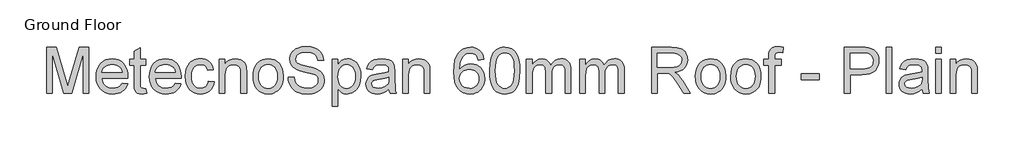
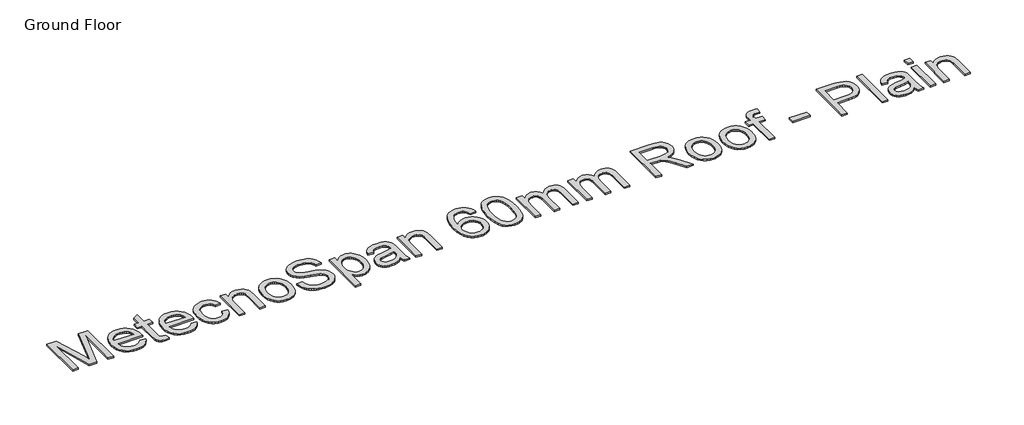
# One storey, part 4 of 14: 1 proxy.
"""IFC4 building model written with IfcOpenShell, lengths in millimetres."""

from ifc_helpers import new_model, si_unit, origin, origin_with_axes, place, context, project, spatial, polyline, outline, extrude, element, save

model = new_model("IFC4")

# Units and contexts
model_context = context("Model", 3, world=origin())
ifc_project = project(units=[si_unit("LENGTHUNIT", "METRE", prefix="MILLI")], contexts=[model_context])

# Site, building, storey
site = spatial("IfcSite", under=ifc_project)
building = spatial("IfcBuilding", under=site)
storey = spatial("IfcBuildingStorey", under=building, Name="Ground Floor", Elevation=0.0)

# Proxy
placement = place(None, origin())
element("IfcBuildingElementProxy", 1, Name="600mm Arial", ObjectType="600mm Arial", at=placement, inside=storey, context=model_context, shape_type="SweptSolid", body=[
    extrude(outline(polyline([(11613.3888321, -15259.7789852), (11613.3888321, -14657.0411243), (11743.0304472, -14657.0411243), (11866.344492, -15081.8712524), (11891.2133148, -15170.6043896), (11918.1422769, -15074.5136125), (12039.3961825, -14657.0411243), (12169.0377976, -14657.0411243), (12169.0377976, -15259.7789852), (12093.695565, -15259.7789852), (12093.695565, -14732.3833569), (11942.2753358, -15259.7789852), (11840.1512939, -15259.7789852), (11688.7310647, -14732.3833569), (11688.7310647, -15259.7789852), (11613.3888321, -15259.7789852)])), origin_with_axes(), (0.0, 0.0, 1.0), 20.0),
    extrude(outline(polyline([(12601.3727183, -15127.9300782), (12675.243423, -15137.3478572), (12663.917256, -15166.9347667), (12648.6271606, -15193.0084031), (12629.3731367, -15215.5687665), (12606.1551843, -15234.6158568), (12579.2124267, -15249.7450038), (12548.7839871, -15260.5515374), (12514.8698657, -15267.0354576), (12477.4700624, -15269.1967643), (12430.7214578, -15265.4673606), (12389.0680189, -15254.2791494), (12352.5097456, -15235.6321308), (12321.046638, -15209.5263047), (12295.7455538, -15176.6882381), (12277.6733508, -15137.8444979), (12266.830029, -15092.9950842), (12263.2155884, -15042.1399969), (12266.8668172, -14989.5604627), (12277.8205036, -14943.2165284), (12296.0766476, -14903.1081939), (12321.6352492, -14869.2354592), (12353.0155834, -14842.3248912), (12388.7369251, -14823.103057), (12428.7992744, -14811.5699564), (12473.2026312, -14807.7255896), (12516.1758468, -14811.5607594), (12555.037981, -14823.0662688), (12589.789034, -14842.2421178), (12620.4290057, -14869.0883064), (12645.4403828, -14902.8874647), (12663.3056522, -14942.9222228), (12674.0248139, -14989.1925807), (12677.5978677, -15041.6985385), (12677.1564093, -15062.0056246), (12338.557821, -15062.0056246), (12342.9218211, -15092.0707807), (12351.5992377, -15118.4019345), (12364.5900707, -15140.999086), (12381.89432, -15159.8622353), (12402.5554926, -15174.733865), (12425.6170951, -15185.3564576), (12451.0791277, -15191.7300132), (12478.9415903, -15193.8545317), (12519.0407278, -15189.9181943), (12552.812295, -15178.1091823), (12580.2562918, -15157.6917316), (12601.3727183, -15127.9300782)]), holes=[polyline([(12338.557821, -14986.663392), (12602.2556351, -14986.663392), (12592.0653039, -14946.8585601), (12583.3005153, -14931.2051812), (12572.0893115, -14918.3844937), (12551.5431021, -14902.9334499), (12528.1642013, -14891.8969901), (12501.9526091, -14885.2751141), (12472.9083256, -14883.0678222), (12446.4162234, -14884.8290572), (12422.1222162, -14890.1127624), (12400.0263038, -14898.9189376), (12380.1284864, -14911.247583), (12363.4312424, -14926.5284814), (12350.9370501, -14944.1914157), (12342.6459097, -14964.2363859), (12338.557821, -14986.663392)])]), origin_with_axes(), (0.0, 0.0, 1.0), 20.0),
    extrude(outline(polyline([(12913.0423446, -15196.9447405), (12922.4601237, -15261.9862772), (12866.1006021, -15269.1967643), (12829.9378019, -15266.0697674), (12802.9720517, -15256.6887765), (12783.9157643, -15242.2310141), (12771.4813529, -15223.8737025), (12764.6387478, -15192.3462155), (12762.3578794, -15138.3779268), (12762.3578794, -14892.4856012), (12705.851205, -14892.4856012), (12705.851205, -14817.1433686), (12762.3578794, -14817.1433686), (12762.3578794, -14709.5746732), (12837.700112, -14665.281681), (12837.700112, -14817.1433686), (12913.0423446, -14817.1433686), (12913.0423446, -14892.4856012), (12837.700112, -14892.4856012), (12837.700112, -15136.1706349), (12841.6732376, -15175.0189735), (12854.5491074, -15188.7777602), (12865.4200204, -15192.5853388), (12880.2272707, -15193.8545317), (12913.0423446, -15196.9447405)])), origin_with_axes(), (0.0, 0.0, 1.0), 20.0),
    extrude(outline(polyline([(13298.28837, -15127.9300782), (13372.1590746, -15137.3478572), (13360.8329077, -15166.9347667), (13345.5428123, -15193.0084031), (13326.2887884, -15215.5687665), (13303.0708359, -15234.6158568), (13276.1280783, -15249.7450038), (13245.6996388, -15260.5515374), (13211.7855174, -15267.0354576), (13174.385714, -15269.1967643), (13127.6371095, -15265.4673606), (13085.9836706, -15254.2791494), (13049.4253973, -15235.6321308), (13017.9622897, -15209.5263047), (12992.6612055, -15176.6882381), (12974.5890024, -15137.8444979), (12963.7456806, -15092.9950842), (12960.13124, -15042.1399969), (12963.7824688, -14989.5604627), (12974.7361552, -14943.2165284), (12992.9922993, -14903.1081939), (13018.5509009, -14869.2354592), (13049.9312351, -14842.3248912), (13085.6525768, -14823.103057), (13125.7149261, -14811.5699564), (13170.1182829, -14807.7255896), (13213.0914984, -14811.5607594), (13251.9536327, -14823.0662688), (13286.7046857, -14842.2421178), (13317.3446573, -14869.0883064), (13342.3560345, -14902.8874647), (13360.2213039, -14942.9222228), (13370.9404655, -14989.1925807), (13374.5135194, -15041.6985385), (13374.072061, -15062.0056246), (13035.4734726, -15062.0056246), (13039.8374728, -15092.0707807), (13048.5148894, -15118.4019345), (13061.5057223, -15140.999086), (13078.8099717, -15159.8622353), (13099.4711442, -15174.733865), (13122.5327468, -15185.3564576), (13147.9947794, -15191.7300132), (13175.857242, -15193.8545317), (13215.9563795, -15189.9181943), (13249.7279466, -15178.1091823), (13277.1719435, -15157.6917316), (13298.28837, -15127.9300782)]), holes=[polyline([(13035.4734726, -14986.663392), (13299.1712868, -14986.663392), (13288.9809555, -14946.8585601), (13280.216167, -14931.2051812), (13269.0049632, -14918.3844937), (13248.4587538, -14902.9334499), (13225.079853, -14891.8969901), (13198.8682608, -14885.2751141), (13169.8239773, -14883.0678222), (13143.3318751, -14884.8290572), (13119.0378678, -14890.1127624), (13096.9419555, -14898.9189376), (13077.0441381, -14911.247583), (13060.346894, -14926.5284814), (13047.8527018, -14944.1914157), (13039.5615613, -14964.2363859), (13035.4734726, -14986.663392)])]), origin_with_axes(), (0.0, 0.0, 1.0), 20.0),
    extrude(outline(polyline([(13732.3891243, -15099.6767409), (13807.7313569, -15109.09452), (13799.5367855, -15144.6457163), (13786.725295, -15176.1042254), (13769.2968855, -15203.4700473), (13747.2515569, -15226.7431821), (13721.5182113, -15245.3166243), (13693.0257508, -15258.5833687), (13661.7741753, -15266.5434154), (13627.7634849, -15269.1967643), (13585.5076392, -15265.4949517), (13547.6203922, -15254.389514), (13514.1017439, -15235.8804511), (13484.9516944, -15209.9677631), (13461.3566629, -15177.1388935), (13444.503069, -15137.8812861), (13434.3909126, -15092.1949409), (13431.0201939, -15040.0798577), (13436.7775471, -14973.0333641), (13443.9742386, -14942.862442), (13454.0496068, -14914.926403), (13467.0726294, -14889.7862671), (13483.1122844, -14868.0030545), (13502.1685717, -14849.576765), (13524.2414914, -14834.5073988), (13548.3331636, -14822.7903573), (13573.4457083, -14814.4210419), (13599.5791255, -14809.3994526), (13626.7334153, -14807.7255896), (13660.1600931, -14810.024852), (13690.3953946, -14816.9226394), (13717.4393197, -14828.4189518), (13741.2918686, -14844.5137891), (13761.5483709, -14864.8392693), (13777.8041566, -14889.0275105), (13790.0592256, -14917.0785126), (13798.3135778, -14948.9922757), (13722.9713452, -14958.4100548), (13709.3045291, -14925.5397985), (13688.0225557, -14901.9769567), (13660.3026474, -14887.7951058), (13627.3220265, -14883.0678222), (13601.7220381, -14885.3946758), (13578.6328444, -14892.3752367), (13558.0544453, -14904.0095047), (13539.9868408, -14920.2974801), (13525.2761595, -14941.6162417), (13514.7685301, -14968.3428687), (13508.4639524, -15000.4773609), (13506.3624265, -15038.0197185), (13508.4179671, -15076.1276947), (13514.5845891, -15108.6346675), (13524.8622923, -15135.5406369), (13539.2510768, -15156.845603), (13556.9599964, -15173.0370093), (13577.1981046, -15184.6022995), (13599.9654016, -15191.5414737), (13625.2618873, -15193.8545317), (13664.2757729, -15188.0787844), (13681.1477609, -15180.8591002), (13696.2631124, -15170.7515424), (13709.198763, -15157.6457463), (13719.5316486, -15141.4313474), (13727.261769, -15122.1083456), (13732.3891243, -15099.6767409)])), origin_with_axes(), (0.0, 0.0, 1.0), 20.0),
    extrude(outline(polyline([(13873.6558105, -15259.7789852), (13873.6558105, -14817.1433686), (13948.9980431, -14817.1433686), (13948.9980431, -14878.9475438), (13975.172847, -14847.7879388), (14006.6083635, -14825.5310781), (14043.3045925, -14812.1769617), (14085.2615341, -14807.7255896), (14122.3992215, -14811.312439), (14156.4099119, -14822.0729874), (14184.7736138, -14838.6644654), (14204.9703353, -14859.7441037), (14218.6739396, -14885.25672), (14227.5582898, -14915.1471322), (14231.5314154, -14987.9877672), (14231.5314154, -15259.7789852), (14156.1891827, -15259.7789852), (14156.1891827, -14998.1413103), (14154.018679, -14959.182607), (14147.5071677, -14931.4810927), (14135.4958205, -14911.6338591), (14116.8258093, -14896.2379976), (14092.8950855, -14886.360366), (14065.1016007, -14883.0678222), (14042.2239392, -14884.9164292), (14020.9741554, -14890.4622503), (14001.3522495, -14899.7052854), (13983.3582214, -14912.6455346), (13968.3256434, -14930.7545258), (13957.5880877, -14955.503787), (13951.1455542, -14986.8933183), (13948.9980431, -15024.9231195), (13948.9980431, -15259.7789852), (13873.6558105, -15259.7789852)])), origin_with_axes(), (0.0, 0.0, 1.0), 20.0),
    extrude(outline(polyline([(14316.2914271, -15038.4611769), (14320.3657201, -14981.135965), (14332.5885994, -14931.7386101), (14352.9600649, -14890.2691122), (14381.4801166, -14856.7274713), (14410.1933063, -14835.289148), (14441.8863402, -14819.97606), (14476.5592182, -14810.7882072), (14514.2119405, -14807.7255896), (14555.7780074, -14811.4549933), (14593.3617517, -14822.6432045), (14626.9631735, -14841.2902231), (14656.5822726, -14867.3960492), (14680.7567182, -14900.0777659), (14698.0241793, -14938.4524565), (14708.384656, -14982.520121), (14711.8381483, -15032.2807594), (14710.311438, -15072.6098231), (14705.7313071, -15108.3955442), (14698.0977557, -15139.6379227), (14687.4107838, -15166.3369585), (14673.8037485, -15189.398561), (14657.4100071, -15209.7286398), (14638.2295596, -15227.3271947), (14616.2624059, -15242.1942259), (14592.3638718, -15254.0078364), (14567.3892829, -15262.4461297), (14541.3386391, -15267.5091057), (14514.2119405, -15269.1967643), (14472.0388682, -15265.4811562), (14434.105636, -15254.3343317), (14400.4122438, -15235.7562909), (14370.9586915, -15209.7470339), (14347.0417633, -15176.7480189), (14329.9582432, -15137.2007044), (14319.7081311, -15091.1050904), (14316.2914271, -15038.4611769)]), holes=[polyline([(14391.6336597, -15038.3140241), (14393.8133605, -15074.8585018), (14400.3524629, -15106.5009519), (14411.2509671, -15133.2413745), (14426.5088728, -15155.0797694), (14445.0685195, -15172.0437279), (14465.8722463, -15184.1608411), (14488.9200533, -15191.4311091), (14514.2119405, -15193.8545317), (14539.3750689, -15191.4173135), (14562.3309054, -15184.1056588), (14583.07945, -15171.9195677), (14601.6207025, -15154.8590402), (14616.8786083, -15132.8045146), (14627.7771124, -15105.6364293), (14634.3162148, -15073.3547842), (14636.4959157, -15035.9595794), (14634.3024193, -15000.57393), (14627.7219301, -14969.7592143), (14616.7544481, -14943.5154325), (14601.3999733, -14921.8425845), (14582.7897429, -14904.878626), (14562.0549939, -14892.7615127), (14539.1957265, -14885.4912448), (14514.2119405, -14883.0678222), (14488.9200533, -14885.4820478), (14465.8722463, -14892.7247245), (14445.0685195, -14904.7958525), (14426.5088728, -14921.6954317), (14411.2509671, -14943.4694473), (14400.3524629, -14970.1638845), (14393.8133605, -15001.7787435), (14391.6336597, -15038.3140241)])]), origin_with_axes(), (0.0, 0.0, 1.0), 20.0),
    extrude(outline(polyline([(14777.7626018, -15052.5878455), (14853.1048344, -15052.5878455), (14861.7500613, -15094.3976343), (14877.3850461, -15128.0036546), (14901.7756224, -15154.6750992), (14936.6876237, -15175.6811611), (14979.3619352, -15189.3111891), (15027.0394417, -15193.8545317), (15069.0147774, -15190.414835), (15105.7661887, -15180.0957451), (15135.5462362, -15163.7617845), (15156.6074804, -15142.277476), (15169.1338624, -15117.6109882), (15173.309323, -15091.7304898), (15170.1823261, -15066.5121791), (15160.8013352, -15044.7151709), (15141.7450478, -15026.118736), (15109.5921615, -15010.5021453), (14999.8897505, -14981.7337733), (14927.8768499, -14962.69588), (14881.79963, -14944.5776918), (14844.2940606, -14919.2306223), (14817.7145865, -14888.5124757), (14801.8772666, -14853.0854396), (14796.59816, -14813.6117015), (14798.2306363, -14791.1754983), (14803.1280654, -14769.4842562), (14811.2904471, -14748.5379751), (14822.7177816, -14728.336655), (14837.2813101, -14709.7034319), (14854.8522739, -14693.4614419), (14875.430673, -14679.6106847), (14899.0165074, -14668.1511606), (14952.0283029, -14652.7552991), (15010.7054811, -14647.6233453), (15074.2754899, -14652.9944224), (15129.8992476, -14669.1076538), (15154.2346416, -14681.1098039), (15175.5901914, -14695.6319456), (15193.965897, -14712.6740791), (15209.3617585, -14732.2362041), (15221.6582142, -14753.7481038), (15230.7357025, -14776.639561), (15236.5942232, -14800.9105756), (15239.2337766, -14826.5611477), (15163.8915439, -14826.5611477), (15158.8515606, -14802.5200593), (15150.0591809, -14781.6059679), (15137.5144049, -14763.8188734), (15121.2172325, -14749.1587759), (15100.8641611, -14737.6992518), (15076.1516881, -14729.5138774), (15047.0798134, -14724.6026527), (15013.6485371, -14722.9655779), (14979.150403, -14724.5842587), (14949.6738581, -14729.440301), (14925.2189025, -14737.5337049), (14905.7855361, -14748.8644703), (14890.9782858, -14762.4853012), (14880.4016785, -14777.4489014), (14874.055714, -14793.7552708), (14871.9403926, -14811.4044095), (14873.4395117, -14826.5887389), (14877.9368691, -14840.3567225), (14885.4324647, -14852.7083605), (14895.9262987, -14863.6436528), (14912.4442002, -14873.999531), (14938.4534573, -14884.4657738), (15018.9460378, -14905.7293531), (15102.0137923, -14925.9260746), (15152.2664729, -14943.5476222), (15195.2166958, -14970.8812544), (15211.8219694, -14986.9485006), (15225.1806843, -15004.6160334), (15235.4491905, -15023.7918824), (15242.7838378, -15044.3840771), (15248.6515556, -15089.8175035), (15246.963897, -15113.3849438), (15241.900921, -15136.2626054), (15233.4626278, -15158.4504882), (15221.6490172, -15179.9485923), (15206.6670229, -15199.9245846), (15188.7235786, -15217.5461322), (15167.8186842, -15232.813235), (15143.9523398, -15245.725893), (15117.8189226, -15255.9943992), (15090.1128098, -15263.3290465), (15029.9824977, -15269.1967643), (14991.4422602, -15267.6148717), (14956.1669754, -15262.869194), (14924.1566433, -15254.9597311), (14895.4112639, -15243.886483), (14869.7560932, -15229.6310557), (14847.0163874, -15212.1750551), (14827.1921464, -15191.518481), (14810.2833702, -15167.6613336), (14796.6625393, -15141.3761651), (14786.7021343, -15113.4355276), (14780.4021551, -15083.839421), (14777.7626018, -15052.5878455)])), origin_with_axes(), (0.0, 0.0, 1.0), 20.0),
    extrude(outline(polyline([(15352.2471255, -15429.2990086), (15352.2471255, -14817.1433686), (15427.5893581, -14817.1433686), (15427.5893581, -14891.0140733), (15452.1638754, -14854.5753616), (15479.6814486, -14828.5477105), (15511.7607586, -14812.9311198), (15550.0204861, -14807.7255896), (15576.2964576, -14809.5466054), (15600.9721424, -14815.0096531), (15624.0475406, -14824.1147324), (15645.522652, -14836.8618436), (15664.9284273, -14852.9198927), (15681.7958167, -14871.9577859), (15696.1248205, -14893.9755233), (15707.9154384, -14918.9731049), (15723.697576, -14974.486498), (15728.9582885, -15035.0766626), (15723.0169943, -15099.511194), (15715.5903765, -15129.1762784), (15705.1931116, -15157.1399086), (15691.9677539, -15182.670919), (15676.0568576, -15205.0381444), (15657.4604228, -15224.2415845), (15636.1784493, -15240.2812395), (15613.2548025, -15252.9317816), (15589.7333475, -15261.9678831), (15565.6140841, -15267.389544), (15540.8970126, -15269.1967643), (15506.2609227, -15264.3591161), (15475.3404411, -15249.8461714), (15448.8713315, -15227.9387986), (15427.5893581, -15200.917866), (15427.5893581, -15429.2990086), (15352.2471255, -15429.2990086)]), holes=[polyline([(15427.5893581, -15041.9928441), (15429.6265046, -15078.302797), (15435.7379443, -15109.5359784), (15445.923677, -15135.6923883), (15460.1837029, -15156.7720266), (15477.3499965, -15172.9956226), (15496.2545325, -15184.5839054), (15516.8973109, -15191.5368751), (15539.2783318, -15193.8545317), (15561.9812494, -15191.4541017), (15583.0011069, -15184.2528116), (15602.3379043, -15172.2506615), (15619.9916416, -15155.4476514), (15634.7023228, -15133.6046579), (15645.2099523, -15106.4825578), (15651.51453, -15074.0813511), (15653.6160559, -15036.4010378), (15651.5651138, -15000.4037845), (15645.4122874, -14969.2257854), (15635.1575768, -14942.8670405), (15620.8009819, -14921.3275497), (15603.5933016, -14904.5889189), (15584.7853346, -14892.632754), (15564.3770809, -14885.4590551), (15542.3685406, -14883.0678222), (15520.4289781, -14885.6108065), (15499.7861996, -14893.2397593), (15480.4402052, -14905.9546808), (15462.3909948, -14923.7555708), (15447.1652787, -14946.4033062), (15436.2897673, -14973.6587635), (15429.7644604, -15005.5219428), (15427.5893581, -15041.9928441)])]), origin_with_axes(), (0.0, 0.0, 1.0), 20.0),
    extrude(outline(polyline([(16096.2516725, -15203.2723108), (16060.2544193, -15234.1376102), (16023.1903083, -15254.3343317), (15984.2132109, -15265.4811562), (15942.4769985, -15269.1967643), (15908.9307591, -15266.9618812), (15879.5139951, -15260.2572318), (15854.2267064, -15249.0828162), (15833.0688932, -15233.4386344), (15816.3624521, -15214.3179677), (15804.4292798, -15192.7140975), (15797.2693765, -15168.6270239), (15794.8827421, -15142.0567468), (15798.4879856, -15110.8235654), (15809.3037163, -15082.4598636), (15825.9871648, -15058.1796519), (15847.1955618, -15039.1969409), (15872.119567, -15024.8495431), (15899.9498399, -15014.4752708), (15965.1385294, -15003.1445054), (16042.1730192, -14991.2251288), (16095.8102141, -14977.2456129), (16096.2516725, -14960.470194), (16091.0645364, -14926.8457796), (16084.5806162, -14914.3929741), (16075.503128, -14904.8464363), (16059.8129609, -14895.3182926), (16040.7014912, -14888.5124757), (15992.2146443, -14883.0678222), (15947.3330409, -14886.6914598), (15915.9894949, -14897.5623728), (15894.615551, -14917.6671238), (15879.6427538, -14948.9922757), (15804.3005211, -14939.5744966), (15817.3787261, -14898.3717132), (15836.8948659, -14865.9980976), (15864.6699566, -14841.2396393), (15902.5250139, -14822.8823278), (15948.8229629, -14811.5147741), (16001.926729, -14807.7255896), (16052.8599912, -14811.0733157), (16093.2350402, -14821.1164942), (16123.6772753, -14836.2180501), (16144.8120959, -14854.7409085), (16158.8283999, -14877.6415627), (16167.9150852, -14905.8765059), (16171.5939051, -14971.8009594), (16171.5939051, -15065.5372918), (16175.4198779, -15196.4297057), (16181.0852606, -15228.7849271), (16190.4294633, -15259.7789852), (16115.0872307, -15259.7789852), (16103.0207012, -15233.5857872), (16096.2516725, -15203.2723108)]), holes=[polyline([(16096.2516725, -15052.5878455), (16045.63111, -15065.1326216), (15974.7034613, -15075.6908348), (15909.8826538, -15087.9045171), (15893.0152643, -15096.2554384), (15880.5256705, -15107.7701448), (15872.8001486, -15121.5657196), (15870.2249747, -15136.759246), (15875.8351751, -15159.1632596), (15892.6657764, -15177.5205711), (15920.3488965, -15189.7710416), (15958.5166535, -15193.8545317), (15998.983673, -15189.3479773), (16034.7418029, -15175.8283139), (16063.7309041, -15155.9075039), (16083.8908375, -15132.1975093), (16092.83037, -15107.7701448), (16095.8102141, -15073.9250013), (16096.2516725, -15052.5878455)])]), origin_with_axes(), (0.0, 0.0, 1.0), 20.0),
    extrude(outline(polyline([(16275.189475, -15259.7789852), (16275.189475, -14817.1433686), (16350.5317076, -14817.1433686), (16350.5317076, -14878.9475438), (16376.7065115, -14847.7879388), (16408.142028, -14825.5310781), (16444.838257, -14812.1769617), (16486.7951986, -14807.7255896), (16523.932886, -14811.312439), (16557.9435765, -14822.0729874), (16586.3072783, -14838.6644654), (16606.5039998, -14859.7441037), (16620.2076041, -14885.25672), (16629.0919543, -14915.1471322), (16633.0650799, -14987.9877672), (16633.0650799, -15259.7789852), (16557.7228473, -15259.7789852), (16557.7228473, -14998.1413103), (16555.5523435, -14959.182607), (16549.0408322, -14931.4810927), (16537.029485, -14911.6338591), (16518.3594738, -14896.2379976), (16494.42875, -14886.360366), (16466.6352653, -14883.0678222), (16443.7576037, -14884.9164292), (16422.5078199, -14890.4622503), (16402.885914, -14899.7052854), (16384.8918859, -14912.6455346), (16369.8593079, -14930.7545258), (16359.1217522, -14955.503787), (16352.6792187, -14986.8933183), (16350.5317076, -15024.9231195), (16350.5317076, -15259.7789852), (16275.189475, -15259.7789852)])), origin_with_axes(), (0.0, 0.0, 1.0), 20.0),
    extrude(outline(polyline([(17339.3985106, -14817.1433686), (17264.056278, -14826.5611477), (17251.9161722, -14789.2211252), (17235.5086352, -14763.7269029), (17219.3126303, -14750.0141016), (17201.3323978, -14740.2192434), (17181.5679376, -14734.3423286), (17160.0192498, -14732.3833569), (17124.9968838, -14736.9450937), (17092.0346571, -14750.6303039), (17063.7261375, -14779.4538582), (17040.6047541, -14819.1299314), (17031.5686526, -14844.4356142), (17024.9881634, -14875.2503298), (17019.194022, -14953.4068597), (17049.4155279, -14918.1453704), (17085.6335103, -14893.2949416), (17125.8246183, -14878.5612677), (17167.9655009, -14873.6500431), (17204.1650892, -14877.0069663), (17237.5687744, -14887.0777359), (17268.1765563, -14903.8623519), (17295.9884352, -14927.3608144), (17319.1006215, -14956.1751717), (17335.6093261, -14988.9074722), (17345.5145488, -15025.557716), (17348.8162897, -15066.125903), (17347.2619883, -15093.5928924), (17342.599084, -15120.0757976), (17334.8275768, -15145.5746184), (17323.9474668, -15170.0893548), (17310.34503, -15192.7049005), (17294.4065426, -15212.5061489), (17276.1320045, -15229.4931), (17255.5214157, -15243.6657538), (17233.0162347, -15254.8355709), (17209.0579197, -15262.8140117), (17183.6464709, -15267.6010762), (17156.7818882, -15269.1967643), (17111.8680951, -15264.9661214), (17071.3045066, -15252.2741925), (17035.0911227, -15231.1209778), (17003.2279434, -15201.5064772), (16977.250876, -15162.1798919), (16958.6958279, -15111.8904232), (16947.562799, -15050.638071), (16943.8517894, -14978.4228353), (16947.9720677, -14897.4612052), (16960.3329028, -14828.3637695), (16980.9342945, -14771.1305281), (16994.3251991, -14746.9629803), (17009.7762429, -14725.761481), (17041.0370155, -14695.696325), (17077.2825891, -14674.2212135), (17118.5129637, -14661.3361466), (17164.7281393, -14657.0411243), (17199.4286085, -14659.6990718), (17230.8365338, -14667.672914), (17258.9519153, -14680.9626511), (17283.7747529, -14699.568283), (17304.6336621, -14722.8644103), (17320.8572581, -14750.2256337), (17332.4455409, -14781.6519532), (17339.3985106, -14817.1433686)]), holes=[polyline([(17019.194022, -15064.9486806), (17023.5534237, -15098.3339717), (17036.6316286, -15130.2109465), (17056.9387147, -15157.6181552), (17082.98476, -15177.5941475), (17114.4202765, -15189.7894357), (17150.8957763, -15193.8545317), (17177.0843758, -15191.7484073), (17200.6150279, -15185.430034), (17221.4877326, -15174.8994119), (17239.7024899, -15160.1565409), (17254.4775506, -15141.7992294), (17265.0311653, -15120.4252855), (17271.3633341, -15096.0347092), (17273.4740571, -15068.6275005), (17271.3909253, -15042.2917482), (17265.1415299, -15018.9082489), (17254.7258709, -14998.4770026), (17240.1439483, -14980.9980093), (17221.8740087, -14966.9955008), (17200.3942987, -14956.9937091), (17175.7048183, -14950.9926341), (17147.8055675, -14948.9922757), (17121.9664559, -14950.9926341), (17098.1598923, -14956.9937091), (17076.3858767, -14966.9955008), (17056.6444091, -14980.9980093), (17040.2598648, -14998.2470763), (17028.5566188, -15017.9885439), (17021.5346712, -15040.222412), (17019.194022, -15064.9486806)])]), origin_with_axes(), (0.0, 0.0, 1.0), 20.0),
    extrude(outline(polyline([(17414.7407432, -14963.2660971), (17420.2773673, -14866.7890439), (17427.1981473, -14825.8759675), (17436.8872393, -14789.8465246), (17449.3032567, -14758.4064096), (17464.4048126, -14731.2613169), (17482.191907, -14708.4112464), (17502.6645401, -14689.8561983), (17525.8916895, -14675.4996034), (17551.9423333, -14665.2448928), (17580.8164714, -14659.0920665), (17612.5141038, -14657.0411243), (17658.9408116, -14661.8971667), (17700.5114771, -14676.4652937), (17735.2763256, -14700.1752883), (17761.2855827, -14732.4569333), (17780.9304812, -14773.0343174), (17796.6022542, -14821.631529), (17806.8661619, -14883.3437337), (17810.2874644, -14963.2660971), (17804.8060227, -15059.1913274), (17797.9542206, -15099.966448), (17788.3616975, -15135.9499057), (17776.0422492, -15167.4038162), (17761.0096712, -15194.5902957), (17743.2639634, -15217.509344), (17722.805126, -15236.1609611), (17699.5503854, -15250.614125), (17673.4169681, -15260.9378135), (17644.4048743, -15267.1320266), (17612.5141038, -15269.1967643), (17571.0170148, -15265.6099149), (17534.2288153, -15254.8493665), (17502.1495053, -15236.9151192), (17474.7790848, -15211.8071731), (17448.5123104, -15166.4197319), (17429.7503286, -15109.8670722), (17418.4931396, -15042.1491939), (17414.7407432, -14963.2660971)]), holes=[polyline([(17490.0829758, -14963.1189443), (17492.2902678, -15028.615735), (17498.9121437, -15081.6321291), (17509.9486036, -15122.1681264), (17525.3996474, -15150.2237271), (17544.0880527, -15169.3122041), (17564.8365973, -15182.9468305), (17587.645281, -15191.1276064), (17612.5141038, -15193.8545317), (17637.3829267, -15191.1184094), (17660.1916104, -15182.9100423), (17680.9401549, -15169.2294306), (17699.6285603, -15150.0765743), (17715.0796041, -15121.9749884), (17726.1160639, -15081.4481881), (17732.7379399, -15028.4961734), (17734.9452318, -14963.1189443), (17732.8115163, -14899.3557975), (17726.4103695, -14847.272904), (17715.7417917, -14806.8702639), (17700.8057827, -14778.1478771), (17682.430077, -14758.1258996), (17661.4424092, -14743.824487), (17637.8427792, -14735.2436395), (17611.631187, -14732.3833569), (17586.8911229, -14734.9033486), (17564.4687153, -14742.4633236), (17544.3639642, -14755.063282), (17526.5768698, -14772.7032236), (17510.6107912, -14803.9731932), (17499.2064493, -14846.1324699), (17492.3638442, -14899.1810536), (17490.0829758, -14963.1189443)])]), origin_with_axes(), (0.0, 0.0, 1.0), 20.0),
    extrude(outline(polyline([(17895.0474761, -15259.7789852), (17895.0474761, -14817.1433686), (17970.3897087, -14817.1433686), (17970.3897087, -14889.9840037), (17993.0512396, -14856.5251362), (18022.1874937, -14830.3135441), (18056.8051894, -14813.3725782), (18095.9110455, -14807.7255896), (18137.8128047, -14813.4829428), (18155.6458845, -14820.6796343), (18171.4004309, -14830.7550025), (18196.489983, -14858.4013344), (18212.89752, -14895.2815044), (18240.3599109, -14856.9757917), (18271.6850628, -14829.6145683), (18306.8729756, -14813.1978342), (18345.9236494, -14807.7255896), (18376.0853745, -14810.0018594), (18402.5590826, -14816.8306689), (18425.3447737, -14828.2120182), (18444.4424477, -14844.1459071), (18459.5394051, -14864.8162767), (18470.3229461, -14890.407068), (18476.7930707, -14920.918281), (18478.9497789, -14956.3499156), (18478.9497789, -15259.7789852), (18403.6075463, -15259.7789852), (18403.6075463, -14988.7235312), (18401.8601068, -14951.1443854), (18396.6177884, -14925.81571), (18386.7953391, -14908.4700739), (18371.3075071, -14894.840046), (18351.386697, -14886.0108781), (18328.2653137, -14883.0678222), (18306.9143624, -14884.9532174), (18287.4488063, -14890.6094031), (18269.8686454, -14900.0363792), (18254.1738798, -14913.2341458), (18241.2658203, -14930.5889789), (18232.0457778, -14952.4871547), (18226.5137523, -14978.9286731), (18224.6697438, -15009.9135341), (18224.6697438, -15259.7789852), (18149.3275112, -15259.7789852), (18149.3275112, -14980.3358217), (18144.9681096, -14937.7350867), (18139.5188575, -14921.01485), (18131.8899046, -14907.3480339), (18121.7777483, -14896.7254412), (18108.8788858, -14889.1378751), (18093.1933173, -14884.5853354), (18074.7210426, -14883.0678222), (18045.6951532, -14887.1145241), (18018.9501321, -14899.25463), (17996.8772124, -14919.1938341), (17981.867627, -14946.6378309), (17973.2591883, -14984.7136174), (17970.3897087, -15036.5481906), (17970.3897087, -15259.7789852), (17895.0474761, -15259.7789852)])), origin_with_axes(), (0.0, 0.0, 1.0), 20.0),
    extrude(outline(polyline([(18591.9631278, -15259.7789852), (18591.9631278, -14817.1433686), (18667.3053604, -14817.1433686), (18667.3053604, -14889.9840037), (18689.9668913, -14856.5251362), (18719.1031453, -14830.3135441), (18753.7208411, -14813.3725782), (18792.8266972, -14807.7255896), (18834.7284564, -14813.4829428), (18852.5615361, -14820.6796343), (18868.3160826, -14830.7550025), (18893.4056346, -14858.4013344), (18909.8131716, -14895.2815044), (18937.2755626, -14856.9757917), (18968.6007145, -14829.6145683), (19003.7886273, -14813.1978342), (19042.8393011, -14807.7255896), (19073.0010262, -14810.0018594), (19099.4747342, -14816.8306689), (19122.2604253, -14828.2120182), (19141.3580994, -14844.1459071), (19156.4550568, -14864.8162767), (19167.2385978, -14890.407068), (19173.7087223, -14920.918281), (19175.8654305, -14956.3499156), (19175.8654305, -15259.7789852), (19100.5231979, -15259.7789852), (19100.5231979, -14988.7235312), (19098.7757584, -14951.1443854), (19093.53344, -14925.81571), (19083.7109907, -14908.4700739), (19068.2231587, -14894.840046), (19048.3023487, -14886.0108781), (19025.1809653, -14883.0678222), (19003.830014, -14884.9532174), (18984.3644579, -14890.6094031), (18966.7842971, -14900.0363792), (18951.0895315, -14913.2341458), (18938.181472, -14930.5889789), (18928.9614295, -14952.4871547), (18923.429404, -14978.9286731), (18921.5853955, -15009.9135341), (18921.5853955, -15259.7789852), (18846.2431629, -15259.7789852), (18846.2431629, -14980.3358217), (18841.8837612, -14937.7350867), (18836.4345092, -14921.01485), (18828.8055563, -14907.3480339), (18818.6933999, -14896.7254412), (18805.7945375, -14889.1378751), (18790.1089689, -14884.5853354), (18771.6366942, -14883.0678222), (18742.6108048, -14887.1145241), (18715.8657838, -14899.25463), (18693.7928641, -14919.1938341), (18678.7832787, -14946.6378309), (18670.17484, -14984.7136174), (18667.3053604, -15036.5481906), (18667.3053604, -15259.7789852), (18591.9631278, -15259.7789852)])), origin_with_axes(), (0.0, 0.0, 1.0), 20.0),
    extrude(outline(polyline([(19533.7410354, -15259.7789852), (19533.7410354, -14657.0411243), (19793.465724, -14657.0411243), (19863.2713326, -14661.1062204), (19914.0574421, -14673.3015085), (19933.6563554, -14682.9951991), (19951.1767354, -14695.8158866), (19966.6185821, -14711.7635711), (19979.9818956, -14730.8382526), (19990.7654366, -14752.0144599), (19998.4679659, -14774.2667221), (20003.0894834, -14797.5950391), (20004.6299893, -14821.999411), (20002.0778079, -14852.9566809), (19994.4212639, -14881.375565), (19981.6603572, -14907.2560634), (19963.7950878, -14930.5981759), (19940.5955295, -14950.6569417), (19911.831756, -14966.6873997), (19877.5037673, -14978.6895498), (19837.6115635, -14986.663392), (19862.4435981, -15002.886988), (19880.4330277, -15018.8898548), (19911.2983271, -15055.4941133), (19941.5014389, -15096.4393794), (20042.0068, -15259.7789852), (19954.4508851, -15259.7789852), (19876.0184438, -15134.8462597), (19819.3646165, -15052.1463872), (19798.3033723, -15028.0317224), (19779.5597846, -15013.0773193), (19743.7280783, -14998.7299215), (19700.0236973, -14996.0811711), (19609.0832681, -14996.0811711), (19609.0832681, -15259.7789852), (19533.7410354, -15259.7789852)]), holes=[polyline([(19609.0832681, -14920.7389385), (19777.7203746, -14920.7389385), (19826.1520393, -14918.071794), (19863.7311851, -14910.0703606), (19892.0213105, -14896.2012094), (19912.5859141, -14875.9309115), (19925.112296, -14851.4115765), (19929.2877567, -14824.7953141), (19927.2965954, -14805.5274946), (19921.3231115, -14788.0439028), (19911.367305, -14772.3445387), (19897.4291759, -14758.4294022), (19879.1868274, -14747.0342574), (19856.3183629, -14738.8948683), (19828.8237823, -14734.0112348), (19796.7030856, -14732.3833569), (19609.0832681, -14732.3833569), (19609.0832681, -14920.7389385)])]), origin_with_axes(), (0.0, 0.0, 1.0), 20.0),
    extrude(outline(polyline([(20108.2255591, -15038.4611769), (20112.2998522, -14981.135965), (20124.5227315, -14931.7386101), (20144.894197, -14890.2691122), (20173.4142487, -14856.7274713), (20202.1274384, -14835.289148), (20233.8204723, -14819.97606), (20268.4933503, -14810.7882072), (20306.1460725, -14807.7255896), (20347.7121394, -14811.4549933), (20385.2958838, -14822.6432045), (20418.8973055, -14841.2902231), (20448.5164047, -14867.3960492), (20472.6908503, -14900.0777659), (20489.9583114, -14938.4524565), (20500.3187881, -14982.520121), (20503.7722803, -15032.2807594), (20502.24557, -15072.6098231), (20497.6654392, -15108.3955442), (20490.0318878, -15139.6379227), (20479.3449158, -15166.3369585), (20465.7378806, -15189.398561), (20449.3441391, -15209.7286398), (20430.1636916, -15227.3271947), (20408.196538, -15242.1942259), (20384.2980039, -15254.0078364), (20359.3234149, -15262.4461297), (20333.2727711, -15267.5091057), (20306.1460725, -15269.1967643), (20263.9730003, -15265.4811562), (20226.0397681, -15254.3343317), (20192.3463758, -15235.7562909), (20162.8928236, -15209.7470339), (20138.9758954, -15176.7480189), (20121.8923752, -15137.2007044), (20111.6422631, -15091.1050904), (20108.2255591, -15038.4611769)]), holes=[polyline([(20183.5677917, -15038.3140241), (20185.7474925, -15074.8585018), (20192.286595, -15106.5009519), (20203.1850991, -15133.2413745), (20218.4430049, -15155.0797694), (20237.0026515, -15172.0437279), (20257.8063784, -15184.1608411), (20280.8541854, -15191.4311091), (20306.1460725, -15193.8545317), (20331.309201, -15191.4173135), (20354.2650375, -15184.1056588), (20375.013582, -15171.9195677), (20393.5548346, -15154.8590402), (20408.8127403, -15132.8045146), (20419.7112444, -15105.6364293), (20426.2503469, -15073.3547842), (20428.4300477, -15035.9595794), (20426.2365513, -15000.57393), (20419.6560621, -14969.7592143), (20408.6885801, -14943.5154325), (20393.3341054, -14921.8425845), (20374.7238749, -14904.878626), (20353.989126, -14892.7615127), (20331.1298585, -14885.4912448), (20306.1460725, -14883.0678222), (20280.8541854, -14885.4820478), (20257.8063784, -14892.7247245), (20237.0026515, -14904.7958525), (20218.4430049, -14921.6954317), (20203.1850991, -14943.4694473), (20192.286595, -14970.1638845), (20185.7474925, -15001.7787435), (20183.5677917, -15038.3140241)])]), origin_with_axes(), (0.0, 0.0, 1.0), 20.0),
    extrude(outline(polyline([(20569.6967339, -15038.4611769), (20573.771027, -14981.135965), (20585.9939063, -14931.7386101), (20606.3653717, -14890.2691122), (20634.8854234, -14856.7274713), (20663.5986131, -14835.289148), (20695.291647, -14819.97606), (20729.9645251, -14810.7882072), (20767.6172473, -14807.7255896), (20809.1833142, -14811.4549933), (20846.7670585, -14822.6432045), (20880.3684803, -14841.2902231), (20909.9875794, -14867.3960492), (20934.162025, -14900.0777659), (20951.4294862, -14938.4524565), (20961.7899628, -14982.520121), (20965.2434551, -15032.2807594), (20963.7167448, -15072.6098231), (20959.136614, -15108.3955442), (20951.5030626, -15139.6379227), (20940.8160906, -15166.3369585), (20927.2090553, -15189.398561), (20910.8153139, -15209.7286398), (20891.6348664, -15227.3271947), (20869.6677127, -15242.1942259), (20845.7691786, -15254.0078364), (20820.7945897, -15262.4461297), (20794.7439459, -15267.5091057), (20767.6172473, -15269.1967643), (20725.444175, -15265.4811562), (20687.5109428, -15254.3343317), (20653.8175506, -15235.7562909), (20624.3639983, -15209.7470339), (20600.4470701, -15176.7480189), (20583.36355, -15137.2007044), (20573.1134379, -15091.1050904), (20569.6967339, -15038.4611769)]), holes=[polyline([(20645.0389665, -15038.3140241), (20647.2186673, -15074.8585018), (20653.7577698, -15106.5009519), (20664.6562739, -15133.2413745), (20679.9141796, -15155.0797694), (20698.4738263, -15172.0437279), (20719.2775531, -15184.1608411), (20742.3253601, -15191.4311091), (20767.6172473, -15193.8545317), (20792.7803757, -15191.4173135), (20815.7362122, -15184.1056588), (20836.4847568, -15171.9195677), (20855.0260093, -15154.8590402), (20870.2839151, -15132.8045146), (20881.1824192, -15105.6364293), (20887.7215216, -15073.3547842), (20889.9012225, -15035.9595794), (20887.7077261, -15000.57393), (20881.1272369, -14969.7592143), (20870.1597549, -14943.5154325), (20854.8052801, -14921.8425845), (20836.1950497, -14904.878626), (20815.4603007, -14892.7615127), (20792.6010333, -14885.4912448), (20767.6172473, -14883.0678222), (20742.3253601, -14885.4820478), (20719.2775531, -14892.7247245), (20698.4738263, -14904.7958525), (20679.9141796, -14921.6954317), (20664.6562739, -14943.4694473), (20653.7577698, -14970.1638845), (20647.2186673, -15001.7787435), (20645.0389665, -15038.3140241)])]), origin_with_axes(), (0.0, 0.0, 1.0), 20.0),
    extrude(outline(polyline([(21068.8390249, -15259.7789852), (21068.8390249, -14892.4856012), (21002.9145714, -14892.4856012), (21002.9145714, -14817.1433686), (21068.8390249, -14817.1433686), (21068.8390249, -14772.5560708), (21070.8255877, -14735.6575067), (21076.785276, -14709.721826), (21091.9420142, -14684.6690622), (21115.3393091, -14664.8402226), (21148.0808067, -14651.9275646), (21191.2701529, -14647.6233453), (21223.9748623, -14649.6834844), (21259.9905096, -14655.863902), (21248.9540498, -14726.497245), (21205.5439743, -14722.9655779), (21176.904361, -14726.0925748), (21158.0871969, -14735.4735657), (21147.6577424, -14753.3894189), (21144.1812575, -14782.1210027), (21144.1812575, -14817.1433686), (21228.9412692, -14817.1433686), (21228.9412692, -14892.4856012), (21144.1812575, -14892.4856012), (21144.1812575, -15259.7789852), (21068.8390249, -15259.7789852)])), origin_with_axes(), (0.0, 0.0, 1.0), 20.0),
    extrude(outline(polyline([(21492.6390834, -15080.8411828), (21492.6390834, -15005.4989502), (21728.0835603, -15005.4989502), (21728.0835603, -15080.8411828), (21492.6390834, -15080.8411828)])), origin_with_axes(), (0.0, 0.0, 1.0), 20.0),
    extrude(outline(polyline([(22057.705828, -15259.7789852), (22057.705828, -14657.0411243), (22281.0837754, -14657.0411243), (22333.1022895, -14658.4758641), (22371.1412878, -14662.7800835), (22411.2956076, -14673.5038436), (22444.3498049, -14690.9598443), (22470.9660672, -14715.9390318), (22491.8065823, -14749.2323523), (22505.2710633, -14788.5037553), (22509.7592236, -14831.41719), (22506.7287957, -14868.4169217), (22497.6375119, -14902.4552033), (22482.4853722, -14933.5320349), (22461.2723767, -14961.6474163), (22432.1499182, -14984.9527407), (22393.2693899, -15001.599401), (22344.6307916, -15011.5873972), (22286.2341234, -15014.9167292), (22133.0480606, -15014.9167292), (22133.0480606, -15259.7789852), (22057.705828, -15259.7789852)]), holes=[polyline([(22133.0480606, -14939.5744966), (22290.6487073, -14939.5744966), (22326.8850838, -14937.8454513), (22357.4560776, -14932.6583151), (22382.3616887, -14924.0130882), (22401.601917, -14911.9097706), (22415.9585119, -14896.6702589), (22426.2132225, -14878.61645), (22432.3660489, -14857.7483439), (22434.416991, -14834.0659404), (22429.5793428, -14800.2207969), (22415.0663981, -14771.673154), (22392.6807787, -14750.1888455), (22364.2251063, -14737.5337049), (22335.1624287, -14733.6709439), (22288.8828737, -14732.3833569), (22133.0480606, -14732.3833569), (22133.0480606, -14939.5744966)])]), origin_with_axes(), (0.0, 0.0, 1.0), 20.0),
    extrude(outline(polyline([(22603.9370144, -15259.7789852), (22603.9370144, -14657.0411243), (22679.279247, -14657.0411243), (22679.279247, -15259.7789852), (22603.9370144, -15259.7789852)])), origin_with_axes(), (0.0, 0.0, 1.0), 20.0),
    extrude(outline(polyline([(23074.8259682, -15203.2723108), (23038.828715, -15234.1376102), (23001.764604, -15254.3343317), (22962.7875066, -15265.4811562), (22921.0512942, -15269.1967643), (22887.5050548, -15266.9618812), (22858.0882908, -15260.2572318), (22832.8010021, -15249.0828162), (22811.6431889, -15233.4386344), (22794.9367478, -15214.3179677), (22783.0035755, -15192.7140975), (22775.8436722, -15168.6270239), (22773.4570378, -15142.0567468), (22777.0622813, -15110.8235654), (22787.878012, -15082.4598636), (22804.5614605, -15058.1796519), (22825.7698575, -15039.1969409), (22850.6938627, -15024.8495431), (22878.5241356, -15014.4752708), (22943.7128251, -15003.1445054), (23020.7473149, -14991.2251288), (23074.3845098, -14977.2456129), (23074.8259682, -14960.470194), (23069.6388321, -14926.8457796), (23063.1549119, -14914.3929741), (23054.0774237, -14904.8464363), (23038.3872566, -14895.3182926), (23019.2757869, -14888.5124757), (22970.78894, -14883.0678222), (22925.9073366, -14886.6914598), (22894.5637906, -14897.5623728), (22873.1898467, -14917.6671238), (22858.2170495, -14948.9922757), (22782.8748168, -14939.5744966), (22795.9530218, -14898.3717132), (22815.4691616, -14865.9980976), (22843.2442523, -14841.2396393), (22881.0993096, -14822.8823278), (22927.3972587, -14811.5147741), (22980.5010247, -14807.7255896), (23031.4342869, -14811.0733157), (23071.8093359, -14821.1164942), (23102.251571, -14836.2180501), (23123.3863916, -14854.7409085), (23137.4026956, -14877.6415627), (23146.4893809, -14905.8765059), (23150.1682008, -14971.8009594), (23150.1682008, -15065.5372918), (23153.9941736, -15196.4297057), (23159.6595563, -15228.7849271), (23169.003759, -15259.7789852), (23093.6615264, -15259.7789852), (23081.5949969, -15233.5857872), (23074.8259682, -15203.2723108)]), holes=[polyline([(23074.8259682, -15052.5878455), (23024.2054057, -15065.1326216), (22953.277757, -15075.6908348), (22888.4569495, -15087.9045171), (22871.58956, -15096.2554384), (22859.0999662, -15107.7701448), (22851.3744443, -15121.5657196), (22848.7992704, -15136.759246), (22854.4094708, -15159.1632596), (22871.2400721, -15177.5205711), (22898.9231922, -15189.7710416), (22937.0909492, -15193.8545317), (22977.5579687, -15189.3479773), (23013.3160986, -15175.8283139), (23042.3051998, -15155.9075039), (23062.4651332, -15132.1975093), (23071.4046657, -15107.7701448), (23074.3845098, -15073.9250013), (23074.8259682, -15052.5878455)])]), origin_with_axes(), (0.0, 0.0, 1.0), 20.0),
    extrude(outline(polyline([(23253.7637707, -14732.3833569), (23253.7637707, -14657.0411243), (23329.1060033, -14657.0411243), (23329.1060033, -14732.3833569), (23253.7637707, -14732.3833569)])), origin_with_axes(), (0.0, 0.0, 1.0), 20.0),
    extrude(outline(polyline([(23253.7637707, -15259.7789852), (23253.7637707, -14817.1433686), (23329.1060033, -14817.1433686), (23329.1060033, -15259.7789852), (23253.7637707, -15259.7789852)])), origin_with_axes(), (0.0, 0.0, 1.0), 20.0),
    extrude(outline(polyline([(23442.1193522, -15259.7789852), (23442.1193522, -14817.1433686), (23517.4615848, -14817.1433686), (23517.4615848, -14878.9475438), (23543.6363888, -14847.7879388), (23575.0719053, -14825.5310781), (23611.7681343, -14812.1769617), (23653.7250758, -14807.7255896), (23690.8627632, -14811.312439), (23724.8734537, -14822.0729874), (23753.2371555, -14838.6644654), (23773.4338771, -14859.7441037), (23787.1374814, -14885.25672), (23796.0218316, -14915.1471322), (23799.9949571, -14987.9877672), (23799.9949571, -15259.7789852), (23724.6527245, -15259.7789852), (23724.6527245, -14998.1413103), (23722.4822207, -14959.182607), (23715.9707094, -14931.4810927), (23703.9593623, -14911.6338591), (23685.289351, -14896.2379976), (23661.3586272, -14886.360366), (23633.5651425, -14883.0678222), (23610.6874809, -14884.9164292), (23589.4376972, -14890.4622503), (23569.8157913, -14899.7052854), (23551.8217632, -14912.6455346), (23536.7891851, -14930.7545258), (23526.0516294, -14955.503787), (23519.609096, -14986.8933183), (23517.4615848, -15024.9231195), (23517.4615848, -15259.7789852), (23442.1193522, -15259.7789852)])), origin_with_axes(), (0.0, 0.0, 1.0), 20.0),
])

save(model, "model.ifc")
